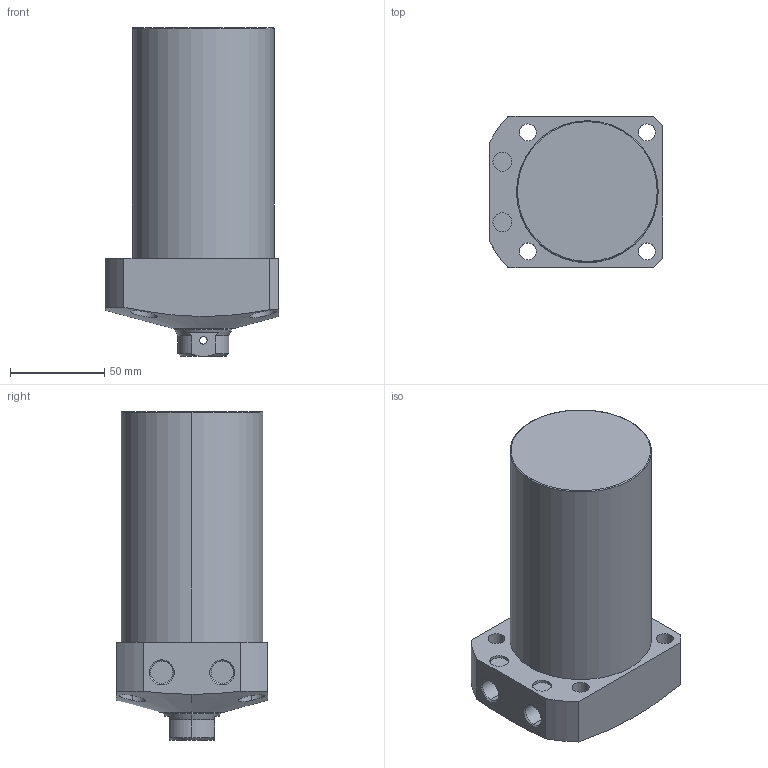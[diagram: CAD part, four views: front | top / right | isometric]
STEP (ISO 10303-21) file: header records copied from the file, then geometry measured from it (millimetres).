
FILE_DESCRIPTION (( 'STEP AP203' ), '1' );
FILE_NAME ('CLL-075CB-085.STEP', '2019-12-24T00:14:41', ( '' ), ( '' ), 'SwSTEP 2.0', 'SolidWorks 2015', '' );
FILE_SCHEMA (( 'CONFIG_CONTROL_DESIGN' ));
Length unit declared in the file: millimetre
Products named in the file (1): CLL-075CB-085
Bounding box: 92 x 80 x 174 mm (x, y, z)
Volume: 757909.9 mm3; surface area: 61158.7 mm2
Topology: 1 solids, 1 shells, 78 faces, 183 edges, 116 vertices
Faces by surface type: cylinder 39, plane 22, cone 15, torus 2
Entity records: 2862 total; most frequent: CARTESIAN_POINT 955, DIRECTION 396, ORIENTED_EDGE 362, EDGE_CURVE 181, AXIS2_PLACEMENT_3D 164, VERTEX_POINT 116, EDGE_LOOP 101, CIRCLE 85
